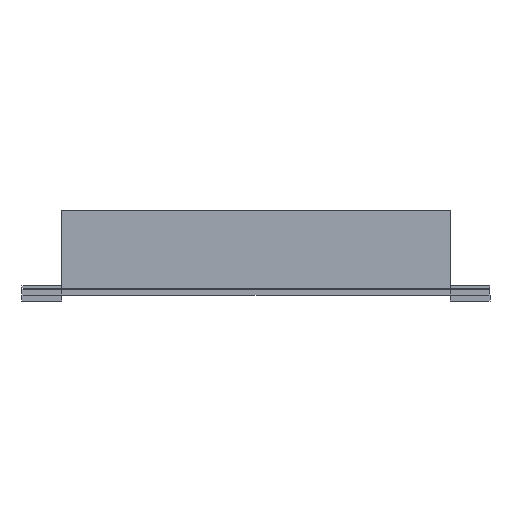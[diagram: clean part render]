
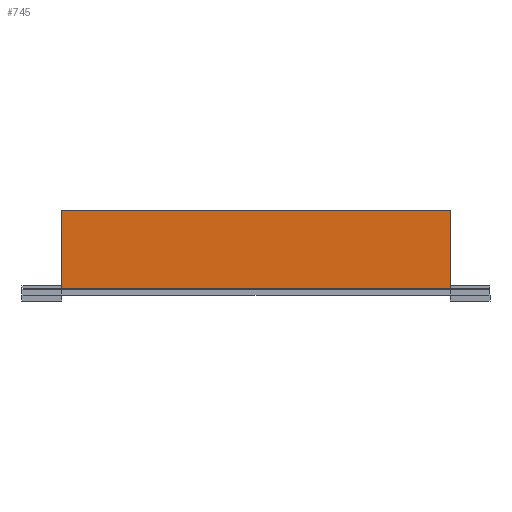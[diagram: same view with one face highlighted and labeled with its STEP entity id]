
A CAD part, left-side view. The second image highlights one B-rep face of the part: STEP entity #745.
In plain terms, the highlighted planar face has unit normal (-1, 0, 0).
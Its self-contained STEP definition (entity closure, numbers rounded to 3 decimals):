
#123 = CARTESIAN_POINT ( 'NONE',  ( -75.6, 49.16, 21.3 ) ) ;
#271 = FACE_OUTER_BOUND ( 'NONE', #4785, .T. ) ;
#312 = VECTOR ( 'NONE', #1497, 1000. ) ;
#437 = CARTESIAN_POINT ( 'NONE',  ( -75.6, 49.16, 1.7 ) ) ;
#601 = AXIS2_PLACEMENT_3D ( 'NONE', #1339, #1738, #3578 ) ;
#745 = ADVANCED_FACE ( 'NONE', ( #271 ), #5868, .F. ) ;
#889 = DIRECTION ( 'NONE',  ( 0., -1., 0. ) ) ;
#986 = VECTOR ( 'NONE', #889, 1000. ) ;
#1167 = CARTESIAN_POINT ( 'NONE',  ( -75.6, -49.16, 1.7 ) ) ;
#1339 = CARTESIAN_POINT ( 'NONE',  ( -75.6, 49.16, 21.3 ) ) ;
#1497 = DIRECTION ( 'NONE',  ( 0., -1., 0. ) ) ;
#1738 = DIRECTION ( 'NONE',  ( 1., 0., 0. ) ) ;
#1780 = LINE ( 'NONE', #437, #986 ) ;
#1930 = CARTESIAN_POINT ( 'NONE',  ( -75.6, 49.16, 1.7 ) ) ;
#1975 = EDGE_CURVE ( 'NONE', #2927, #4058, #3782, .T. ) ;
#2102 = CARTESIAN_POINT ( 'NONE',  ( -75.6, 49.16, 21.3 ) ) ;
#2103 = LINE ( 'NONE', #5324, #4934 ) ;
#2118 = EDGE_CURVE ( 'NONE', #2927, #3480, #2103, .T. ) ;
#2201 = LINE ( 'NONE', #2254, #3231 ) ;
#2254 = CARTESIAN_POINT ( 'NONE',  ( -75.6, -49.16, 21.3 ) ) ;
#2683 = EDGE_CURVE ( 'NONE', #3480, #4210, #1780, .T. ) ;
#2927 = VERTEX_POINT ( 'NONE', #2102 ) ;
#3099 = DIRECTION ( 'NONE',  ( 0., 0., -1. ) ) ;
#3231 = VECTOR ( 'NONE', #4987, 1000. ) ;
#3480 = VERTEX_POINT ( 'NONE', #1930 ) ;
#3578 = DIRECTION ( 'NONE',  ( 0., 1., 0. ) ) ;
#3782 = LINE ( 'NONE', #123, #312 ) ;
#4058 = VERTEX_POINT ( 'NONE', #5149 ) ;
#4131 = ORIENTED_EDGE ( 'NONE', *, *, #2683, .T. ) ;
#4210 = VERTEX_POINT ( 'NONE', #1167 ) ;
#4336 = ORIENTED_EDGE ( 'NONE', *, *, #5150, .F. ) ;
#4785 = EDGE_LOOP ( 'NONE', ( #4131, #4336, #5658, #5931 ) ) ;
#4934 = VECTOR ( 'NONE', #3099, 1000. ) ;
#4987 = DIRECTION ( 'NONE',  ( 0., 0., -1. ) ) ;
#5149 = CARTESIAN_POINT ( 'NONE',  ( -75.6, -49.16, 21.3 ) ) ;
#5150 = EDGE_CURVE ( 'NONE', #4058, #4210, #2201, .T. ) ;
#5324 = CARTESIAN_POINT ( 'NONE',  ( -75.6, 49.16, 21.3 ) ) ;
#5658 = ORIENTED_EDGE ( 'NONE', *, *, #1975, .F. ) ;
#5868 = PLANE ( 'NONE',  #601 ) ;
#5931 = ORIENTED_EDGE ( 'NONE', *, *, #2118, .T. ) ;
